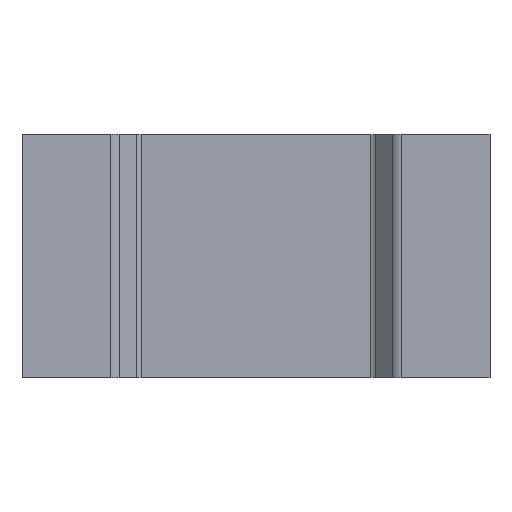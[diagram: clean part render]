
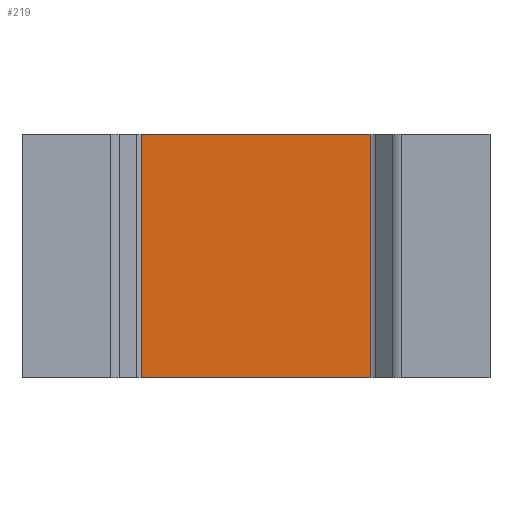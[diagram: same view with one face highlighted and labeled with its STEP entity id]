
A CAD part, front view. The second image highlights one B-rep face of the part: STEP entity #219.
In plain terms, the highlighted planar face has unit normal (0, -1, 0).
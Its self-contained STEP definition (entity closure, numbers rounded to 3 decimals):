
#62 = CARTESIAN_POINT ( 'NONE',  ( 2.45, 0.5, 2.6 ) ) ;
#79 = FACE_OUTER_BOUND ( 'NONE', #1764, .T. ) ;
#219 = ADVANCED_FACE ( 'NONE', ( #79 ), #4205, .T. ) ;
#619 = VECTOR ( 'NONE', #4301, 1000. ) ;
#696 = EDGE_CURVE ( 'NONE', #3207, #1535, #3530, .T. ) ;
#854 = CARTESIAN_POINT ( 'NONE',  ( -2.45, 0.5, -7.507 ) ) ;
#1050 = ORIENTED_EDGE ( 'NONE', *, *, #3512, .F. ) ;
#1535 = VERTEX_POINT ( 'NONE', #1870 ) ;
#1764 = EDGE_LOOP ( 'NONE', ( #5491, #5721, #1050, #5489 ) ) ;
#1809 = VECTOR ( 'NONE', #3230, 1000. ) ;
#1870 = CARTESIAN_POINT ( 'NONE',  ( -2.45, 0.5, 2.6 ) ) ;
#1910 = LINE ( 'NONE', #2261, #1809 ) ;
#2261 = CARTESIAN_POINT ( 'NONE',  ( -2.45, 0.5, -2.6 ) ) ;
#2458 = CARTESIAN_POINT ( 'NONE',  ( -2.45, 0.5, 2.6 ) ) ;
#2701 = CARTESIAN_POINT ( 'NONE',  ( -2.45, 0.5, -2.6 ) ) ;
#2726 = DIRECTION ( 'NONE',  ( 0., 0., 1. ) ) ;
#2757 = CARTESIAN_POINT ( 'NONE',  ( -2.45, 0.5, -7.507 ) ) ;
#2928 = VERTEX_POINT ( 'NONE', #62 ) ;
#3207 = VERTEX_POINT ( 'NONE', #2701 ) ;
#3230 = DIRECTION ( 'NONE',  ( -1., 0., 0. ) ) ;
#3233 = DIRECTION ( 'NONE',  ( 0., -1., 0. ) ) ;
#3355 = CARTESIAN_POINT ( 'NONE',  ( 2.45, 0.5, -7.507 ) ) ;
#3458 = CARTESIAN_POINT ( 'NONE',  ( 2.45, 0.5, -2.6 ) ) ;
#3512 = EDGE_CURVE ( 'NONE', #1535, #2928, #4829, .T. ) ;
#3530 = LINE ( 'NONE', #854, #4901 ) ;
#3877 = AXIS2_PLACEMENT_3D ( 'NONE', #2757, #3233, #4598 ) ;
#3952 = LINE ( 'NONE', #3355, #4792 ) ;
#4205 = PLANE ( 'NONE',  #3877 ) ;
#4301 = DIRECTION ( 'NONE',  ( 1., 0., 0. ) ) ;
#4598 = DIRECTION ( 'NONE',  ( 0., 0., -1. ) ) ;
#4649 = VERTEX_POINT ( 'NONE', #3458 ) ;
#4792 = VECTOR ( 'NONE', #5207, 1000. ) ;
#4829 = LINE ( 'NONE', #2458, #619 ) ;
#4901 = VECTOR ( 'NONE', #2726, 1000. ) ;
#5207 = DIRECTION ( 'NONE',  ( 0., 0., 1. ) ) ;
#5489 = ORIENTED_EDGE ( 'NONE', *, *, #696, .F. ) ;
#5490 = EDGE_CURVE ( 'NONE', #4649, #2928, #3952, .T. ) ;
#5491 = ORIENTED_EDGE ( 'NONE', *, *, #5907, .F. ) ;
#5721 = ORIENTED_EDGE ( 'NONE', *, *, #5490, .T. ) ;
#5907 = EDGE_CURVE ( 'NONE', #4649, #3207, #1910, .T. ) ;
